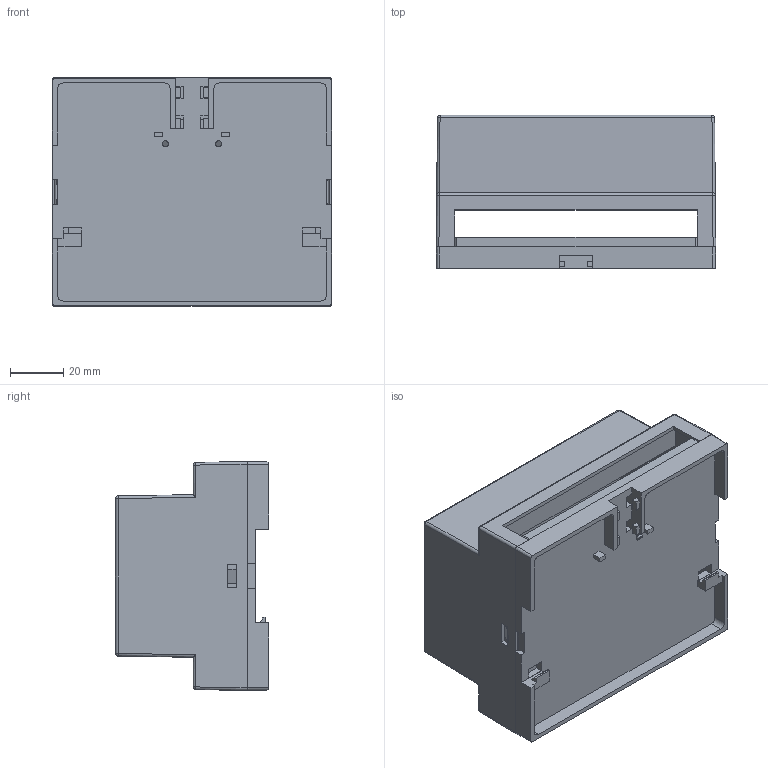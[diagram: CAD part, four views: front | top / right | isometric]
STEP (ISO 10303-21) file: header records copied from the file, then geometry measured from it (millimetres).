
FILE_DESCRIPTION (( 'STEP AP203' ), '1' );
FILE_NAME ('PT106-B.STEP', '2022-02-01T11:26:07', ( '' ), ( '' ), 'SwSTEP 2.0', 'SolidWorks 2021', '' );
FILE_SCHEMA (( 'CONFIG_CONTROL_DESIGN' ));
Length unit declared in the file: millimetre
Products named in the file (4): PT106-B
Assembly tree (3 placements, depth 2):
  PT106-B
    PT106-B
    PT106-B
    PT106-B
Bounding box: 105.1 x 57.6 x 86.1 mm (x, y, z)
Volume: 73845.8 mm3; surface area: 77421.4 mm2
Topology: 3 solids, 3 shells, 469 faces, 1314 edges, 856 vertices
Faces by surface type: plane 337, cylinder 50, bspline 38, cone 36, sphere 8
Entity records: 15928 total; most frequent: CARTESIAN_POINT 3609, ORIENTED_EDGE 2612, DIRECTION 2284, EDGE_CURVE 1306, LINE 1054, VECTOR 1054, VERTEX_POINT 856, AXIS2_PLACEMENT_3D 615
